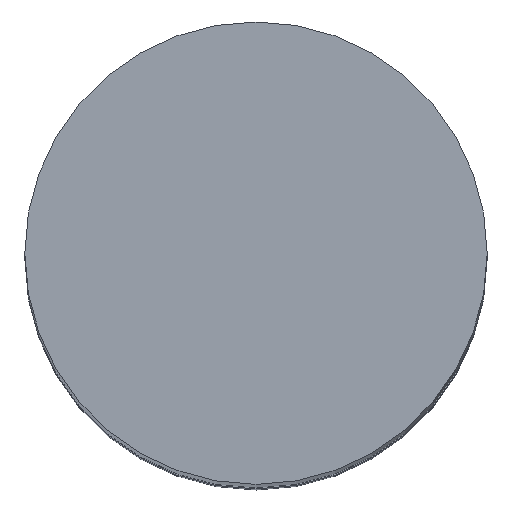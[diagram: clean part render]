
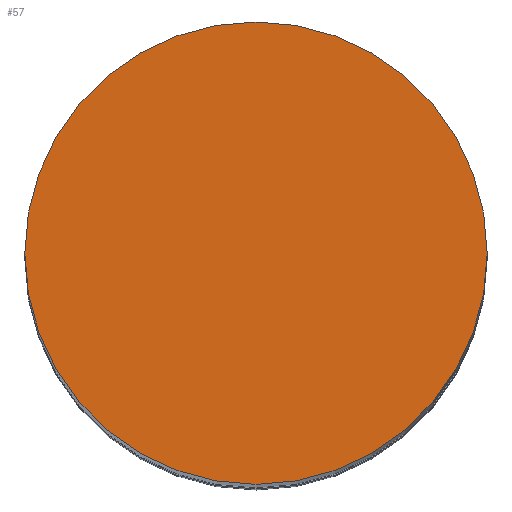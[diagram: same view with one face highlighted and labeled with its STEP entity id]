
A CAD part, top view. The second image highlights one B-rep face of the part: STEP entity #57.
In plain terms, the highlighted planar face has unit normal (0, 0, 1).
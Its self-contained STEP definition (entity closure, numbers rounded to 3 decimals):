
#57=ADVANCED_FACE('',(#110),#111,.T.);
#110=FACE_OUTER_BOUND('',#156,.T.);
#111=PLANE('',#157);
#156=EDGE_LOOP('',(#243,#244));
#157=AXIS2_PLACEMENT_3D('',#245,#246,#247);
#243=ORIENTED_EDGE('',*,*,#288,.T.);
#244=ORIENTED_EDGE('',*,*,#259,.T.);
#245=CARTESIAN_POINT('',(0.0,0.0,0.0));
#246=DIRECTION('',(0.0,0.0,1.0));
#247=DIRECTION('',(1.0,0.0,0.0));
#259=EDGE_CURVE('',#296,#293,#297,.T.);
#288=EDGE_CURVE('',#293,#296,#337,.T.);
#293=VERTEX_POINT('',#342);
#296=VERTEX_POINT('',#346);
#297=CIRCLE('',#347,5.0);
#337=CIRCLE('',#392,5.0);
#342=CARTESIAN_POINT('',(-5.0,0.0,0.0));
#346=CARTESIAN_POINT('',(5.0,0.,0.0));
#347=AXIS2_PLACEMENT_3D('',#397,#398,#399);
#392=AXIS2_PLACEMENT_3D('',#447,#448,#449);
#397=CARTESIAN_POINT('',(0.0,0.0,0.0));
#398=DIRECTION('',(0.0,0.0,1.0));
#399=DIRECTION('',(-1.0,0.0,0.0));
#447=CARTESIAN_POINT('',(0.0,0.0,0.0));
#448=DIRECTION('',(0.0,0.0,1.0));
#449=DIRECTION('',(-1.0,0.0,0.0));
